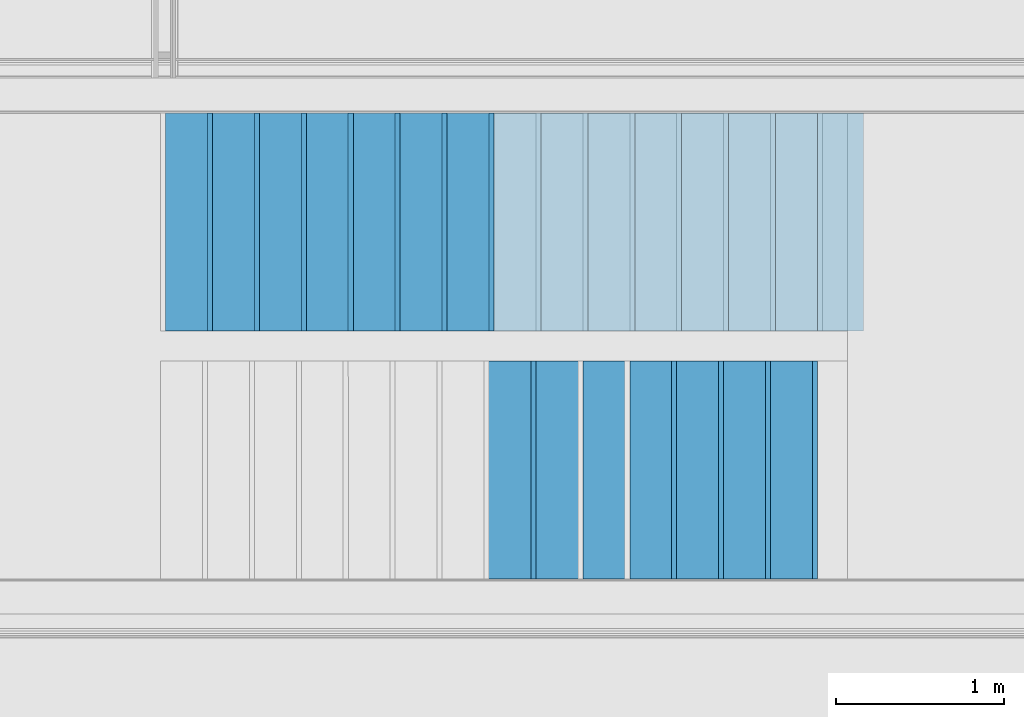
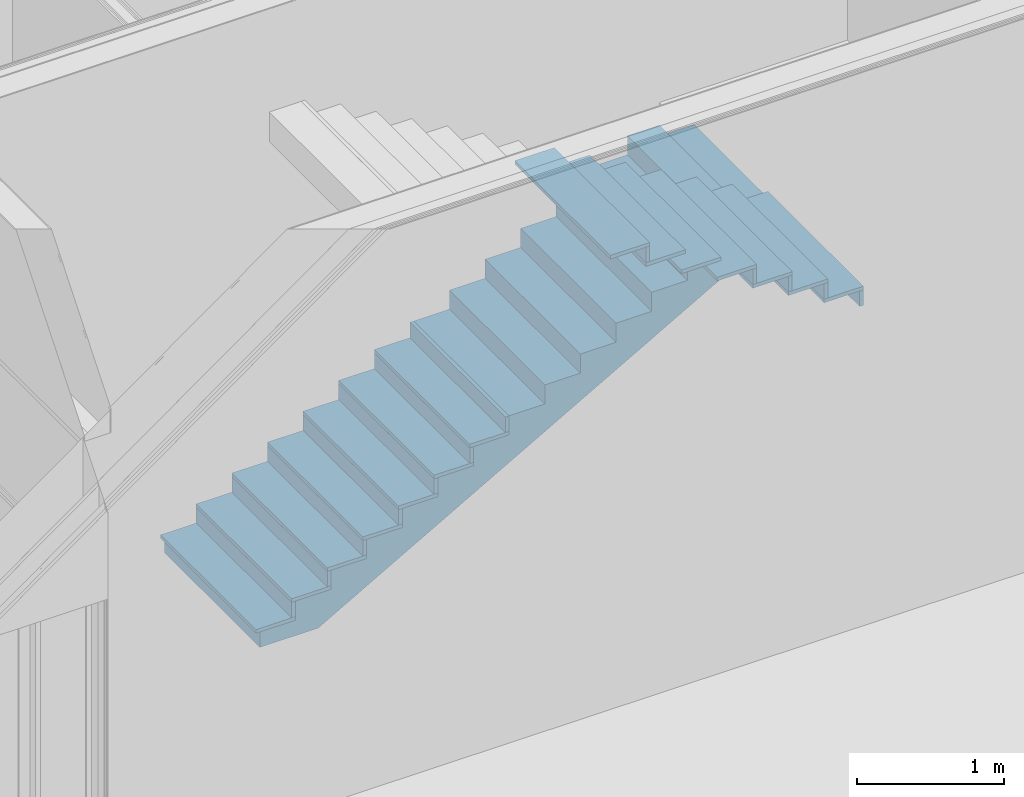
# One storey, part 87 of 260: 27 members, 1 element without a shape of its own.
"""IFC2X3 building model written with IfcOpenShell, lengths in millimetres."""

from ifc_helpers import new_model, entity, si_unit, converted_unit, derived_unit, money_unit, direction, frame, origin_with_axes, place, context, subcontext, project, spatial, faceted_brep, material, type_object, element, aggregate, save


model = new_model("IFC2X3")

# Units and contexts
model_context = context("Model", 3, precision=0.01, world=origin_with_axes(), true_north=direction((0.0, 1.0)))
body_context = subcontext(model_context, "Body", "Model", "MODEL_VIEW")
ifc_project = project(units=[si_unit("LENGTHUNIT", "METRE", prefix="MILLI"), si_unit("AREAUNIT", "SQUARE_METRE"), si_unit("VOLUMEUNIT", "CUBIC_METRE"), converted_unit("PLANEANGLEUNIT", "DEGREE", entity("IfcPlaneAngleMeasure", 0.0174532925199), si_unit("PLANEANGLEUNIT", "RADIAN"), dimensions=[0, 0, 0, 0, 0, 0, 0]), money_unit("EUR"), converted_unit("TIMEUNIT", "Year", entity("IfcTimeMeasure", 31556926.0), si_unit("TIMEUNIT", "SECOND"), dimensions=[0, 0, 1, 0, 0, 0, 0]), si_unit("MASSUNIT", "GRAM", prefix="KILO"), si_unit("THERMODYNAMICTEMPERATUREUNIT", "DEGREE_CELSIUS"), si_unit("LUMINOUSINTENSITYUNIT", "LUMEN"), si_unit("ENERGYUNIT", "JOULE", prefix="MEGA"), derived_unit("THERMALCONDUCTANCEUNIT", [(si_unit("POWERUNIT", "WATT"), 1), (si_unit("LENGTHUNIT", "METRE"), -1), (si_unit("THERMODYNAMICTEMPERATUREUNIT", "KELVIN"), -1)]), derived_unit("SPECIFICHEATCAPACITYUNIT", [(si_unit("ENERGYUNIT", "JOULE"), 1), (si_unit("MASSUNIT", "GRAM", prefix="KILO"), -1), (si_unit("THERMODYNAMICTEMPERATUREUNIT", "KELVIN"), -1)]), derived_unit("MASSDENSITYUNIT", [(si_unit("MASSUNIT", "GRAM", prefix="KILO"), 1), (si_unit("VOLUMEUNIT", "CUBIC_METRE"), -1)])], contexts=[model_context])

# Site, building, storey
site_placement = place(None, origin_with_axes())
site = spatial("IfcSite", under=ifc_project, at=site_placement, Name="Kolde pst 67a", CompositionType="ELEMENT")
building_placement = place(site_placement, origin_with_axes())
building = spatial("IfcBuilding", under=site, at=building_placement, Name="Riigigümnaasium", CompositionType="ELEMENT")
storey_placement = place(building_placement, origin_with_axes())
storey = spatial("IfcBuildingStorey", under=building, at=storey_placement, Name="1. korrus", CompositionType="ELEMENT", Elevation=0.0)

# Stair, members
stair_placement = place(storey_placement, frame((79109.6162467, 9409.92811689, 0.0), z_axis=(0.0, 0.0, 1.0), x_axis=(0.9999999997, 2.4513383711e-05, 0.0)))
stair = element("IfcStair", 1, at=stair_placement, inside=storey, Name="TREPP", ShapeType="NOTDEFINED")
ifc_material_1 = material(Name="_KANDETARIND - raudbetoon C25/30 vastavalt EK osale")
member_type_1 = type_object("IfcMemberType", Name="IfcMember", PredefinedType="USERDEFINED")
member_1_placement = place(stair_placement, origin_with_axes())
member_1 = element("IfcMember", 2, at=member_1_placement, type_object=member_type_1, material=ifc_material_1, Name="TT KONSTRUKTSIOON - 010", ObjectType="Stair Structure", context=body_context, shape_type="Brep", body=[
    faceted_brep([(3639.99955388, -20.0489610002, 2190.68965517), (3639.99953115, -20.0489610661, 2099.31034483), (3640.01721975, 1279.95103888, 2099.31034483), (3640.01721673, 1279.95103888, 2190.68965517), (3546.66627948, -20.0477136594, 1890.95799576), (3593.33291668, -20.0483413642, 1917.39477427), (3639.99953115, -20.0489610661, 1943.8315399), (3914.45332988, -20.0526893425, 2099.31034483), (3389.99973068, -20.045598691, 2190.68965517), (3389.99973068, -20.045598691, 2032.06896552), (3109.9997307, -20.041832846, 2032.06896552), (3109.9997307, -20.041832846, 1873.44827586), (2829.99973073, -20.0380653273, 1873.44827586), (2829.99973073, -20.0380653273, 1714.82758621), (2549.99973075, -20.0342994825, 1714.82758621), (2549.99973075, -20.0342994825, 1556.20689655), (2269.99973078, -20.0305336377, 1556.20689655), (2269.99973078, -20.0305336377, 1397.5862069), (1989.9997308, -20.0267677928, 1397.5862069), (1989.9997308, -20.0267677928, 1238.96551724), (1709.99973083, -20.0230002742, 1238.96551724), (1709.99973083, -20.0230002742, 1080.34482759), (1429.99973085, -20.0192344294, 1080.34482759), (1429.99973085, -20.0192344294, 921.724137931), (1149.99973088, -20.0154685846, 921.724137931), (1149.99973088, -20.0154685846, 763.103448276), (869.999730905, -20.0117027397, 763.103448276), (869.999730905, -20.0117027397, 604.482758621), (589.99973093, -20.0079352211, 604.482758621), (589.99973093, -20.0079352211, 445.862068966), (309.999730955, -20.0041693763, 445.862068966), (309.999730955, -20.0041693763, 287.24137931), (29.9997309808, -20.0004035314, 287.24137931), (29.9997309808, -20.0004035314, 128.620689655), (-250.000268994, -19.9966376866, 128.620689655), (-250.000268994, -19.9966376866, 0.0), (208.714428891, -20.0028105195, 0.0), (279.999730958, -20.0037663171, 40.3832992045), (373.333064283, -20.0050217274, 93.2568624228), (466.666397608, -20.0062771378, 146.130425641), (559.999730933, -20.0075324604, 199.00398886), (653.333064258, -20.0087878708, 251.877552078), (746.666397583, -20.0100432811, 304.751115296), (839.999730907, -20.0112986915, 357.624678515), (933.333064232, -20.0125541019, 410.498241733), (1026.66639756, -20.0138095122, 463.371804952), (1119.99973088, -20.0150649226, 516.24536817), (1213.33306421, -20.0163257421, 569.118931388), (1306.66639753, -20.0175811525, 621.992494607), (1399.99973086, -20.0188325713, 674.866057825), (1493.33306418, -20.0200879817, 727.739621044), (1586.66639751, -20.021343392, 780.613184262), (1679.99973083, -20.0225973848, 833.48674748), (1773.33306416, -20.0238527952, 886.360310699), (1866.66639748, -20.0251082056, 939.233873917), (1959.99973081, -20.0263636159, 992.107437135), (2053.33306413, -20.0276190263, 1044.98100035), (2146.66639746, -20.0288744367, 1097.85456357), (2239.99973078, -20.030129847, 1150.72812679), (2333.33306411, -20.0313919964, 1203.60169001), (2426.66639743, -20.0326474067, 1256.47525323), (2519.99973076, -20.0338988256, 1309.34881644), (2613.33306408, -20.035154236, 1362.22237962), (2706.66639741, -20.0364096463, 1415.09594272), (2799.99973073, -20.0376623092, 1467.96950577), (2846.66639739, -20.0382900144, 1494.40628704), (2893.33306406, -20.0389177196, 1520.84306831), (2939.99973072, -20.0395454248, 1547.2798495), (2986.66639738, -20.04017313, 1573.71663068), (3033.33306404, -20.0408008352, 1600.15341171), (3079.9997307, -20.0414285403, 1626.59019274), (3126.66639737, -20.0420562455, 1653.02697506), (3173.33306403, -20.0426839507, 1679.46375739), (3219.99973069, -20.0433116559, 1705.90053948), (3266.66639735, -20.0439393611, 1732.33732157), (3313.33306402, -20.0445670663, 1758.77410513), (3359.99973068, -20.0451947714, 1785.21088869), (3406.66636788, -20.0458305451, 1811.6476646), (3453.33300508, -20.0464582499, 1838.08444051), (3499.99964228, -20.0470859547, 1864.52121814), (3914.47100043, 1279.9473106, 2099.31034483), (3390.01721675, 1279.95440206, 2190.68965517), (3640.01721975, 1279.95103888, 1943.83155449), (3593.35055006, 1279.95167145, 1917.39477472), (3546.6838834, 1279.95229915, 1890.95799665), (3500.01721674, 1279.95292686, 1864.52121839), (3453.35055008, 1279.95355456, 1838.08444012), (3406.68388342, 1279.95418227, 1811.64766127), (3360.01721675, 1279.95480997, 1785.21088242), (3313.35055009, 1279.95543768, 1758.77410163), (3266.68388343, 1279.95606539, 1732.33732084), (3220.01721677, 1279.95669309, 1705.90053967), (3173.3505501, 1279.9573208, 1679.4637585), (3126.68388344, 1279.9579485, 1653.02697719), (3080.01721678, 1279.95857621, 1626.59019589), (3033.35055012, 1279.95920391, 1600.15341429), (2986.68388345, 1279.95983162, 1573.71663268), (2940.01721679, 1279.96045932, 1547.27985105), (2893.35055013, 1279.96108703, 1520.84306941), (2846.68388347, 1279.96171473, 1494.40628777), (2800.0172168, 1279.96234244, 1467.96950606), (2706.68388348, 1279.96359785, 1415.09594287), (2613.35055015, 1279.96485326, 1362.22237966), (2520.01721683, 1279.96610867, 1309.34881644), (2426.6838835, 1279.96736408, 1256.47525322), (2333.35055018, 1279.96861949, 1203.60169001), (2240.01721685, 1279.9698749, 1150.72812679), (2146.68388353, 1279.97113031, 1097.85456357), (2053.3505502, 1279.97238572, 1044.98100035), (1960.01721688, 1279.97364113, 992.107437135), (1866.68388355, 1279.97489654, 939.233873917), (1773.35055023, 1279.97615195, 886.360310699), (1680.0172169, 1279.97740736, 833.48674748), (1586.68388358, 1279.97866277, 780.613184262), (1493.35055025, 1279.97991818, 727.739621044), (1400.01721693, 1279.98117359, 674.866057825), (1306.68388361, 1279.982429, 621.992494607), (1213.35055028, 1279.98368441, 569.118931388), (1120.01721696, 1279.98493982, 516.24536817), (1026.68388363, 1279.98619523, 463.371804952), (933.350550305, 1279.98745064, 410.498241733), (840.017216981, 1279.98870605, 357.624678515), (746.683883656, 1279.98996147, 304.751115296), (653.350550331, 1279.99121688, 251.877552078), (560.017217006, 1279.99247229, 199.00398886), (466.683883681, 1279.9937277, 146.130425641), (373.350550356, 1279.99498311, 93.2568624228), (280.017217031, 1279.99623852, 40.3832992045), (208.731914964, 1279.99719736, 0.0), (-249.982782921, 1280.00336306, 0.0), (-249.982782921, 1280.00336306, 128.620689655), (30.0172170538, 1279.99959683, 128.620689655), (30.0172170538, 1279.99959683, 287.24137931), (310.017217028, 1279.9958306, 287.24137931), (310.017217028, 1279.9958306, 445.862068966), (590.017217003, 1279.99206437, 445.862068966), (590.017217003, 1279.99206437, 604.482758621), (870.017216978, 1279.98829814, 604.482758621), (870.017216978, 1279.98829814, 763.103448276), (1150.01721695, 1279.98453191, 763.103448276), (1150.01721695, 1279.98453191, 921.724137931), (1430.01721693, 1279.98076567, 921.724137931), (1430.01721693, 1279.98076567, 1080.34482759), (1710.0172169, 1279.97699944, 1080.34482759), (1710.0172169, 1279.97699944, 1238.96551724), (1990.01721688, 1279.97323321, 1238.96551724), (1990.01721688, 1279.97323321, 1397.5862069), (2270.01721685, 1279.96946698, 1397.5862069), (2270.01721685, 1279.96946698, 1556.20689655), (2550.01721683, 1279.96570075, 1556.20689655), (2550.01721683, 1279.96570075, 1714.82758621), (2830.0172168, 1279.96193452, 1714.82758621), (2830.0172168, 1279.96193452, 1873.44827586), (3110.01721678, 1279.95816829, 1873.44827586), (3110.01721678, 1279.95816829, 2032.06896552), (3390.01721675, 1279.95440206, 2032.06896552), (3546.67068046, 304.952289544, 1890.95799598), (3640.0039533, 304.951034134, 1943.83154355), (3640.0127976, 954.951040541, 1943.83155085), (2800.01284528, 954.962341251, 1467.96950601), (2800.00410225, 304.962338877, 1467.96950586), (2893.33743557, 304.961083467, 1520.84306859), (2986.6707689, 304.959828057, 1573.71663118), (3080.00410222, 304.958572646, 1626.59019353), (3173.33743555, 304.957317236, 1679.46375767), (3266.67076887, 304.956061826, 1732.33732139), (3360.0041022, 304.954806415, 1785.21088712), (3453.33739133, 304.953544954, 1838.08444041), (3546.67948242, 954.952295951, 1890.95799643), (3453.34616383, 954.953551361, 1838.08444022), (3360.01284523, 954.954808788, 1785.21088399), (3266.67951191, 954.956064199, 1732.33732102), (3173.34617858, 954.957319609, 1679.46375822), (3080.01284526, 954.958575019, 1626.5901951), (2986.67951193, 954.95983043, 1573.71663218), (2893.34617861, 954.96108584, 1520.84306914), (3593.34173337, 629.951665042, 1917.39477449), (2846.67514043, 629.961712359, 1494.40628741), (2940.00847375, 629.960456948, 1547.27985027), (3033.34180708, 629.959201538, 1600.153413), (3126.6751404, 629.957946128, 1653.02697613), (3220.00847373, 629.956690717, 1705.90053958), (3313.34180705, 629.955435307, 1758.77410338), (3406.67512565, 629.954175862, 1811.64766294), (3500.00842951, 629.952920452, 1864.52121826)], [[[0, 1, 2, 3]], [[4, 5, 6, 7, 1, 0, 8, 9, 10, 11, 12, 13, 14, 15, 16, 17, 18, 19, 20, 21, 22, 23, 24, 25, 26, 27, 28, 29, 30, 31, 32, 33, 34, 35, 36, 37, 38, 39, 40, 41, 42, 43, 44, 45, 46, 47, 48, 49, 50, 51, 52, 53, 54, 55, 56, 57, 58, 59, 60, 61, 62, 63, 64, 65, 66, 67, 68, 69, 70, 71, 72, 73, 74, 75, 76, 77, 78, 79]], [[80, 2, 1, 7]], [[81, 3, 2, 80, 82, 83, 84, 85, 86, 87, 88, 89, 90, 91, 92, 93, 94, 95, 96, 97, 98, 99, 100, 101, 102, 103, 104, 105, 106, 107, 108, 109, 110, 111, 112, 113, 114, 115, 116, 117, 118, 119, 120, 121, 122, 123, 124, 125, 126, 127, 128, 129, 130, 131, 132, 133, 134, 135, 136, 137, 138, 139, 140, 141, 142, 143, 144, 145, 146, 147, 148, 149, 150, 151, 152, 153, 154, 155]], [[8, 0, 3, 81]], [[5, 4, 156]], [[5, 157, 6]], [[7, 6, 157, 158, 82, 80]], [[155, 9, 8, 81]], [[155, 154, 10, 9]], [[153, 11, 10, 154]], [[153, 152, 12, 11]], [[151, 13, 12, 152]], [[151, 150, 14, 13]], [[149, 15, 14, 150]], [[149, 148, 16, 15]], [[147, 17, 16, 148]], [[147, 146, 18, 17]], [[145, 19, 18, 146]], [[145, 144, 20, 19]], [[143, 21, 20, 144]], [[143, 142, 22, 21]], [[141, 23, 22, 142]], [[141, 140, 24, 23]], [[139, 25, 24, 140]], [[139, 138, 26, 25]], [[137, 27, 26, 138]], [[137, 136, 28, 27]], [[135, 29, 28, 136]], [[135, 134, 30, 29]], [[133, 31, 30, 134]], [[133, 132, 32, 31]], [[131, 33, 32, 132]], [[131, 130, 34, 33]], [[130, 129, 35, 34]], [[35, 129, 128, 36]], [[128, 127, 37, 36]], [[127, 126, 38, 37]], [[126, 125, 39, 38]], [[125, 124, 40, 39]], [[124, 123, 41, 40]], [[123, 122, 42, 41]], [[122, 121, 43, 42]], [[121, 120, 44, 43]], [[120, 119, 45, 44]], [[119, 118, 46, 45]], [[118, 117, 47, 46]], [[117, 116, 48, 47]], [[116, 115, 49, 48]], [[115, 114, 50, 49]], [[114, 113, 51, 50]], [[113, 112, 52, 51]], [[112, 111, 53, 52]], [[111, 110, 54, 53]], [[110, 109, 55, 54]], [[109, 108, 56, 55]], [[108, 107, 57, 56]], [[107, 106, 58, 57]], [[106, 105, 59, 58]], [[105, 104, 60, 59]], [[104, 103, 61, 60]], [[103, 102, 62, 61]], [[102, 101, 63, 62]], [[101, 100, 159, 160, 64, 63]], [[65, 64, 160]], [[66, 65, 161]], [[67, 66, 161]], [[68, 67, 162]], [[69, 68, 162]], [[70, 69, 163]], [[71, 70, 163]], [[72, 71, 164]], [[73, 72, 164]], [[74, 73, 165]], [[75, 74, 165]], [[76, 75, 166]], [[77, 76, 166]], [[78, 77, 167]], [[79, 78, 167]], [[4, 79, 156]], [[83, 82, 158]], [[84, 83, 168]], [[85, 84, 168]], [[86, 85, 169]], [[87, 86, 169]], [[88, 87, 170]], [[89, 88, 170]], [[90, 89, 171]], [[91, 90, 171]], [[92, 91, 172]], [[93, 92, 172]], [[94, 93, 173]], [[95, 94, 173]], [[96, 95, 174]], [[97, 96, 174]], [[98, 97, 175]], [[99, 98, 175]], [[100, 99, 159]], [[157, 5, 156, 176]], [[176, 158, 157]], [[177, 160, 159]], [[161, 65, 160, 177]], [[162, 67, 161, 178]], [[163, 69, 162, 179]], [[180, 164, 71, 163]], [[165, 73, 164, 181]], [[166, 75, 165, 182]], [[183, 167, 77, 166]], [[184, 156, 79, 167]], [[83, 158, 176, 168]], [[168, 184, 169, 85]], [[169, 183, 170, 87]], [[89, 170, 182, 171]], [[91, 171, 181, 172]], [[172, 180, 173, 93]], [[95, 173, 179, 174]], [[174, 178, 175, 97]], [[99, 175, 177, 159]], [[168, 176, 156]], [[175, 161, 177]], [[175, 178, 161]], [[174, 162, 178]], [[179, 162, 174]], [[173, 163, 179]], [[172, 164, 180]], [[180, 163, 173]], [[181, 164, 172]], [[165, 181, 171]], [[182, 165, 171]], [[170, 166, 182]], [[167, 183, 169]], [[170, 183, 166]], [[168, 156, 184]], [[169, 184, 167]]]),
])
ifc_material_2 = material(Name="_VIIMISTLUSKIHT - viimistlus vastavalt SA osale")
member_type_2 = type_object("IfcMemberType", Name="IfcMember", PredefinedType="USERDEFINED")
member_2_placement = place(stair_placement, frame((0.00874303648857, 649.999999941, 287.24137931), z_axis=(0.0, 0.0, 1.0), x_axis=(1.34508253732e-05, 0.99999999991, 0.0)))
member_2 = element("IfcMember", 3, at=member_2_placement, type_object=member_type_2, material=ifc_material_2, Name="TV TÕUS - 147", ObjectType="Stair Riser", context=body_context, shape_type="Brep", body=[
    faceted_brep([(630.0, 0.0, 0.0), (-670.0, 0.0, 0.0), (-670.0, -30.0, 0.0), (630.0, -30.0, 0.0), (630.0, 0.0, -128.620689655), (-670.0, 0.0, -128.620689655), (-670.0, -30.0, -128.620689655), (630.0, -30.0, -128.620689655)], [[[0, 1, 2, 3]], [[4, 5, 1, 0]], [[1, 5, 6, 2]], [[3, 2, 6, 7]], [[0, 3, 7, 4]], [[7, 6, 5, 4]]]),
])
member_3_placement = place(stair_placement, frame((280.008743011, 649.99623371, 445.862068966), z_axis=(0.0, 0.0, 1.0), x_axis=(1.34508253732e-05, 0.99999999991, 0.0)))
member_3 = element("IfcMember", 4, at=member_3_placement, type_object=member_type_2, material=ifc_material_2, Name="TV TÕUS - 148", ObjectType="Stair Riser", context=body_context, shape_type="Brep", body=[
    faceted_brep([(630.0, 0.0, 0.0), (-670.0, 0.0, 0.0), (-670.0, -30.0, 0.0), (630.0, -30.0, 0.0), (630.0, 0.0, -128.620689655), (-670.0, 0.0, -128.620689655), (-670.0, -30.0, -128.620689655), (630.0, -30.0, -128.620689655)], [[[0, 1, 2, 3]], [[4, 5, 1, 0]], [[1, 5, 6, 2]], [[3, 2, 6, 7]], [[0, 3, 7, 4]], [[7, 6, 5, 4]]]),
])
member_4_placement = place(stair_placement, frame((560.008742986, 649.992467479, 604.482758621), z_axis=(0.0, 0.0, 1.0), x_axis=(1.34508253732e-05, 0.99999999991, 0.0)))
member_4 = element("IfcMember", 5, at=member_4_placement, type_object=member_type_2, material=ifc_material_2, Name="TV TÕUS - 149", ObjectType="Stair Riser", context=body_context, shape_type="Brep", body=[
    faceted_brep([(630.0, 0.0, 0.0), (-670.0, 0.0, 0.0), (-670.0, -30.0, 0.0), (630.0, -30.0, 0.0), (630.0, 0.0, -128.620689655), (-670.0, 0.0, -128.620689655), (-670.0, -30.0, -128.620689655), (630.0, -30.0, -128.620689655)], [[[0, 1, 2, 3]], [[4, 5, 1, 0]], [[1, 5, 6, 2]], [[3, 2, 6, 7]], [[0, 3, 7, 4]], [[7, 6, 5, 4]]]),
])
member_5_placement = place(stair_placement, frame((840.00874296, 649.988701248, 763.103448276), z_axis=(0.0, 0.0, 1.0), x_axis=(1.34508253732e-05, 0.99999999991, 0.0)))
member_5 = element("IfcMember", 6, at=member_5_placement, type_object=member_type_2, material=ifc_material_2, Name="TV TÕUS - 150", ObjectType="Stair Riser", context=body_context, shape_type="Brep", body=[
    faceted_brep([(630.0, 0.0, 0.0), (-670.0, 0.0, 0.0), (-670.0, -30.0, 0.0), (630.0, -30.0, 0.0), (630.0, 0.0, -128.620689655), (-670.0, 0.0, -128.620689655), (-670.0, -30.0, -128.620689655), (630.0, -30.0, -128.620689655)], [[[0, 1, 2, 3]], [[4, 5, 1, 0]], [[1, 5, 6, 2]], [[3, 2, 6, 7]], [[0, 3, 7, 4]], [[7, 6, 5, 4]]]),
])
member_6_placement = place(stair_placement, frame((1120.00874294, 649.984935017, 921.724137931), z_axis=(0.0, 0.0, 1.0), x_axis=(1.3450825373e-05, 0.99999999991, 0.0)))
member_6 = element("IfcMember", 7, at=member_6_placement, type_object=member_type_2, material=ifc_material_2, Name="TV TÕUS - 151", ObjectType="Stair Riser", context=body_context, shape_type="Brep", body=[
    faceted_brep([(630.0, 0.0, 0.0), (-670.0, 0.0, 0.0), (-670.0, -30.0, 0.0), (630.0, -30.0, 0.0), (630.0, 0.0, -128.620689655), (-670.0, 0.0, -128.620689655), (-670.0, -30.0, -128.620689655), (630.0, -30.0, -128.620689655)], [[[0, 1, 2, 3]], [[4, 5, 1, 0]], [[1, 5, 6, 2]], [[3, 2, 6, 7]], [[0, 3, 7, 4]], [[7, 6, 5, 4]]]),
])
member_7_placement = place(stair_placement, frame((1400.00874291, 649.981168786, 1080.34482759), z_axis=(0.0, 0.0, 1.0), x_axis=(1.3450825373e-05, 0.99999999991, 0.0)))
member_7 = element("IfcMember", 8, at=member_7_placement, type_object=member_type_2, material=ifc_material_2, Name="TV TÕUS - 152", ObjectType="Stair Riser", context=body_context, shape_type="Brep", body=[
    faceted_brep([(630.0, 0.0, 0.0), (-670.0, 0.0, 0.0), (-670.0, -30.0, 0.0), (630.0, -30.0, 0.0), (630.0, 0.0, -128.620689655), (-670.0, 0.0, -128.620689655), (-670.0, -30.0, -128.620689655), (630.0, -30.0, -128.620689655)], [[[0, 1, 2, 3]], [[4, 5, 1, 0]], [[1, 5, 6, 2]], [[3, 2, 6, 7]], [[0, 3, 7, 4]], [[7, 6, 5, 4]]]),
])
member_8_placement = place(stair_placement, frame((1680.00874288, 649.977402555, 1238.96551724), z_axis=(0.0, 0.0, 1.0), x_axis=(1.34508253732e-05, 0.99999999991, 0.0)))
member_8 = element("IfcMember", 9, at=member_8_placement, type_object=member_type_2, material=ifc_material_2, Name="TV TÕUS - 153", ObjectType="Stair Riser", context=body_context, shape_type="Brep", body=[
    faceted_brep([(630.0, 0.0, 0.0), (-670.0, 0.0, 0.0), (-670.0, -30.0, 0.0), (630.0, -30.0, 0.0), (630.0, 0.0, -128.620689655), (-670.0, 0.0, -128.620689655), (-670.0, -30.0, -128.620689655), (630.0, -30.0, -128.620689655)], [[[0, 1, 2, 3]], [[4, 5, 1, 0]], [[1, 5, 6, 2]], [[3, 2, 6, 7]], [[0, 3, 7, 4]], [[7, 6, 5, 4]]]),
])
member_9_placement = place(stair_placement, frame((3639.99476559, -850.048960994, 2507.93103448), z_axis=(0.0, 0.0, 1.0), x_axis=(-1.19413351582e-06, -0.999999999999, 0.0)))
member_9 = element("IfcMember", 10, at=member_9_placement, type_object=member_type_2, material=ifc_material_2, Name="TV TÕUS - 160", ObjectType="Stair Riser", context=body_context, shape_type="Brep", body=[
    faceted_brep([(650.0, -30.0, 0.0), (650.0, 0.0, 0.0), (-649.999999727, 0.0, 0.0), (-649.999999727, -30.0, 0.0), (650.0, 0.0, -128.620689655), (650.0, -30.0, -128.620689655), (-649.999999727, 0.0, -128.620689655), (-649.999999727, -30.0, -128.620689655)], [[[0, 1, 2, 3]], [[4, 1, 0, 5]], [[1, 4, 6, 2]], [[3, 2, 6, 7]], [[5, 0, 3, 7]], [[4, 5, 7, 6]]]),
])
member_10_placement = place(stair_placement, frame((3359.99476559, -850.048626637, 2666.55172414), z_axis=(0.0, 0.0, 1.0), x_axis=(-1.19413351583e-06, -0.999999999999, 0.0)))
member_10 = element("IfcMember", 11, at=member_10_placement, type_object=member_type_2, material=ifc_material_2, Name="TV TÕUS - 161", ObjectType="Stair Riser", context=body_context, shape_type="Brep", body=[
    faceted_brep([(650.0, 0.0, 0.0), (-649.999999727, 0.0, 0.0), (-649.999999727, -30.0, 0.0), (650.0, -30.0, 0.0), (650.0, 0.0, -128.620689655), (-649.999999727, 0.0, -128.620689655), (-649.999999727, -30.0, -128.620689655), (650.0, -30.0, -128.620689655)], [[[0, 1, 2, 3]], [[4, 5, 1, 0]], [[1, 5, 6, 2]], [[3, 2, 6, 7]], [[0, 3, 7, 4]], [[7, 6, 5, 4]]]),
])
member_11_placement = place(stair_placement, frame((3079.99476559, -850.048292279, 2825.17241379), z_axis=(0.0, 0.0, 1.0), x_axis=(-1.19413351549e-06, -0.999999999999, 0.0)))
member_11 = element("IfcMember", 12, at=member_11_placement, type_object=member_type_2, material=ifc_material_2, Name="TV TÕUS - 162", ObjectType="Stair Riser", context=body_context, shape_type="Brep", body=[
    faceted_brep([(650.0, 0.0, 0.0), (-649.999999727, 0.0, 0.0), (-649.999999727, -30.0, 0.0), (650.0, -30.0, 0.0), (650.0, 0.0, -128.620689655), (-649.999999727, 0.0, -128.620689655), (-649.999999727, -30.0, -128.620689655), (650.0, -30.0, -128.620689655)], [[[0, 1, 2, 3]], [[4, 5, 1, 0]], [[1, 5, 6, 2]], [[3, 2, 6, 7]], [[0, 3, 7, 4]], [[7, 6, 5, 4]]]),
])
member_12_placement = place(stair_placement, frame((2799.99476559, -850.047957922, 2983.79310345), z_axis=(0.0, 0.0, 1.0), x_axis=(-1.19413351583e-06, -0.999999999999, 0.0)))
member_12 = element("IfcMember", 13, at=member_12_placement, type_object=member_type_2, material=ifc_material_2, Name="TV TÕUS - 163", ObjectType="Stair Riser", context=body_context, shape_type="Brep", body=[
    faceted_brep([(650.0, 0.0, 0.0), (-649.999999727, 0.0, 0.0), (-649.999999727, -30.0, 0.0), (650.0, -30.0, 0.0), (650.0, 0.0, -128.620689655), (-649.999999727, 0.0, -128.620689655), (-649.999999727, -30.0, -128.620689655), (650.0, -30.0, -128.620689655)], [[[0, 1, 2, 3]], [[4, 5, 1, 0]], [[1, 5, 6, 2]], [[3, 2, 6, 7]], [[0, 3, 7, 4]], [[7, 6, 5, 4]]]),
])
member_13_placement = place(stair_placement, frame((1959.99476559, -850.04695485, 3459.65517241), z_axis=(0.0, 0.0, 1.0), x_axis=(-1.19413351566e-06, -0.999999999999, 0.0)))
member_13 = element("IfcMember", 14, at=member_13_placement, type_object=member_type_2, material=ifc_material_2, Name="TV TÕUS - 166", ObjectType="Stair Riser", context=body_context, shape_type="Brep", body=[
    faceted_brep([(650.0, 0.0, 0.0), (-649.999999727, 0.0, 0.0), (-649.999999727, -30.0, 0.0), (650.0, -30.0, 0.0), (650.0, 0.0, -128.620689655), (-649.999999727, 0.0, -128.620689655), (-649.999999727, -30.0, -128.620689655), (650.0, -30.0, -128.620689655)], [[[0, 1, 2, 3]], [[4, 5, 1, 0]], [[1, 5, 6, 2]], [[3, 2, 6, 7]], [[0, 3, 7, 4]], [[7, 6, 5, 4]]]),
])
member_type_3 = type_object("IfcMemberType", Name="IfcMember", PredefinedType="USERDEFINED")
member_14_placement = place(stair_placement, frame((-279.991256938, 650.003766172, 158.620689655), z_axis=(0.0, 0.0, 1.0), x_axis=(1.34508253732e-05, 0.99999999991, 0.0)))
member_14 = element("IfcMember", 15, at=member_14_placement, type_object=member_type_3, material=ifc_material_2, Name="TV ASTE - 146", ObjectType="Stair Tread", context=body_context, shape_type="Brep", body=[
    faceted_brep([(-670.0, 0.0, -30.0), (-670.0, 0.0, 0.0), (630.0, 0.0, 0.0), (630.0, 0.0, -30.0), (-670.0, -309.999993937, -30.0), (-670.0, -309.999993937, 0.0), (630.0, -310.00000041, 0.0), (630.0, -310.00000041, -30.0)], [[[0, 1, 2, 3]], [[4, 5, 1, 0]], [[1, 5, 6, 2]], [[3, 2, 6, 7]], [[0, 3, 7, 4]], [[7, 6, 5, 4]]]),
])
member_15_placement = place(stair_placement, frame((0.00874303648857, 649.999999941, 317.24137931), z_axis=(0.0, 0.0, 1.0), x_axis=(1.34508253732e-05, 0.99999999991, 0.0)))
member_15 = element("IfcMember", 16, at=member_15_placement, type_object=member_type_3, material=ifc_material_2, Name="TV ASTE - 147", ObjectType="Stair Tread", context=body_context, shape_type="Brep", body=[
    faceted_brep([(-670.0, 0.0, -30.0), (-670.0, 0.0, 0.0), (630.0, 0.0, 0.0), (630.0, 0.0, -30.0), (-670.0, -309.999993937, -30.0), (-670.0, -309.999993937, 0.0), (630.0, -310.00000041, 0.0), (630.0, -310.00000041, -30.0)], [[[0, 1, 2, 3]], [[4, 5, 1, 0]], [[1, 5, 6, 2]], [[3, 2, 6, 7]], [[0, 3, 7, 4]], [[7, 6, 5, 4]]]),
])
member_16_placement = place(stair_placement, frame((280.008743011, 649.99623371, 475.862068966), z_axis=(0.0, 0.0, 1.0), x_axis=(1.34508253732e-05, 0.99999999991, 0.0)))
member_16 = element("IfcMember", 17, at=member_16_placement, type_object=member_type_3, material=ifc_material_2, Name="TV ASTE - 148", ObjectType="Stair Tread", context=body_context, shape_type="Brep", body=[
    faceted_brep([(-670.0, 0.0, -30.0), (-670.0, 0.0, 0.0), (630.0, 0.0, 0.0), (630.0, 0.0, -30.0), (-670.0, -309.999993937, -30.0), (-670.0, -309.999993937, 0.0), (630.0, -310.00000041, 0.0), (630.0, -310.00000041, -30.0)], [[[0, 1, 2, 3]], [[4, 5, 1, 0]], [[1, 5, 6, 2]], [[3, 2, 6, 7]], [[0, 3, 7, 4]], [[7, 6, 5, 4]]]),
])
member_17_placement = place(stair_placement, frame((560.008742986, 649.992467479, 634.482758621), z_axis=(0.0, 0.0, 1.0), x_axis=(1.34508253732e-05, 0.99999999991, 0.0)))
member_17 = element("IfcMember", 18, at=member_17_placement, type_object=member_type_3, material=ifc_material_2, Name="TV ASTE - 149", ObjectType="Stair Tread", context=body_context, shape_type="Brep", body=[
    faceted_brep([(-670.0, 0.0, -30.0), (-670.0, 0.0, 0.0), (630.0, 0.0, 0.0), (630.0, 0.0, -30.0), (-670.0, -309.999993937, -30.0), (-670.0, -309.999993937, 0.0), (630.0, -310.00000041, 0.0), (630.0, -310.00000041, -30.0)], [[[0, 1, 2, 3]], [[4, 5, 1, 0]], [[1, 5, 6, 2]], [[3, 2, 6, 7]], [[0, 3, 7, 4]], [[7, 6, 5, 4]]]),
])
member_18_placement = place(stair_placement, frame((840.00874296, 649.988701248, 793.103448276), z_axis=(0.0, 0.0, 1.0), x_axis=(1.34508253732e-05, 0.99999999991, 0.0)))
member_18 = element("IfcMember", 19, at=member_18_placement, type_object=member_type_3, material=ifc_material_2, Name="TV ASTE - 150", ObjectType="Stair Tread", context=body_context, shape_type="Brep", body=[
    faceted_brep([(-670.0, 0.0, -30.0), (-670.0, 0.0, 0.0), (630.0, 0.0, 0.0), (630.0, 0.0, -30.0), (-670.0, -309.999993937, -30.0), (-670.0, -309.999993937, 0.0), (630.0, -310.00000041, 0.0), (630.0, -310.00000041, -30.0)], [[[0, 1, 2, 3]], [[4, 5, 1, 0]], [[1, 5, 6, 2]], [[3, 2, 6, 7]], [[0, 3, 7, 4]], [[7, 6, 5, 4]]]),
])
member_19_placement = place(stair_placement, frame((1120.00874294, 649.984935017, 951.724137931), z_axis=(0.0, 0.0, 1.0), x_axis=(1.3450825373e-05, 0.99999999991, 0.0)))
member_19 = element("IfcMember", 20, at=member_19_placement, type_object=member_type_3, material=ifc_material_2, Name="TV ASTE - 151", ObjectType="Stair Tread", context=body_context, shape_type="Brep", body=[
    faceted_brep([(-670.0, 0.0, -30.0), (-670.0, 0.0, 0.0), (630.0, 0.0, 0.0), (630.0, 0.0, -30.0), (-670.0, -309.999993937, -30.0), (-670.0, -309.999993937, 0.0), (630.0, -310.00000041, 0.0), (630.0, -310.00000041, -30.0)], [[[0, 1, 2, 3]], [[4, 5, 1, 0]], [[1, 5, 6, 2]], [[3, 2, 6, 7]], [[0, 3, 7, 4]], [[7, 6, 5, 4]]]),
])
member_20_placement = place(stair_placement, frame((1400.00874291, 649.981168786, 1110.34482759), z_axis=(0.0, 0.0, 1.0), x_axis=(1.3450825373e-05, 0.99999999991, 0.0)))
member_20 = element("IfcMember", 21, at=member_20_placement, type_object=member_type_3, material=ifc_material_2, Name="TV ASTE - 152", ObjectType="Stair Tread", context=body_context, shape_type="Brep", body=[
    faceted_brep([(-670.0, 0.0, -30.0), (-670.0, 0.0, 0.0), (630.0, 0.0, 0.0), (630.0, 0.0, -30.0), (-670.0, -309.999993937, -30.0), (-670.0, -309.999993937, 0.0), (630.0, -310.00000041, 0.0), (630.0, -310.00000041, -30.0)], [[[0, 1, 2, 3]], [[4, 5, 1, 0]], [[1, 5, 6, 2]], [[3, 2, 6, 7]], [[0, 3, 7, 4]], [[7, 6, 5, 4]]]),
])
member_21_placement = place(stair_placement, frame((3639.99476559, -850.048960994, 2537.93103448), z_axis=(0.0, 0.0, 1.0), x_axis=(-1.19413351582e-06, -0.999999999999, 0.0)))
member_21 = element("IfcMember", 22, at=member_21_placement, type_object=member_type_3, material=ifc_material_2, Name="TV ASTE - 160", ObjectType="Stair Tread", context=body_context, shape_type="Brep", body=[
    faceted_brep([(650.0, -310.0, -30.0), (650.0, 5.96047300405e-06, -30.0), (650.0, 5.96047300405e-06, 0.0), (650.0, -310.0, 0.0), (-650.0, 5.9604587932e-06, -30.0), (-650.0, -310.0, -30.0), (-650.0, 5.9604587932e-06, 0.0), (-650.0, -310.0, 0.0)], [[[0, 1, 2, 3]], [[4, 1, 0, 5]], [[1, 4, 6, 2]], [[3, 2, 6, 7]], [[5, 0, 3, 7]], [[4, 5, 7, 6]]]),
])
member_22_placement = place(stair_placement, frame((3359.99476559, -850.048626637, 2696.55172414), z_axis=(0.0, 0.0, 1.0), x_axis=(-1.19413351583e-06, -0.999999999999, 0.0)))
member_22 = element("IfcMember", 23, at=member_22_placement, type_object=member_type_3, material=ifc_material_2, Name="TV ASTE - 161", ObjectType="Stair Tread", context=body_context, shape_type="Brep", body=[
    faceted_brep([(-650.0, 0.0, -30.0), (-650.0, 0.0, 0.0), (650.0, 0.0, 0.0), (650.0, 0.0, -30.0), (-650.0, -310.0, -30.0), (-650.0, -310.0, 0.0), (650.0, -310.0, 0.0), (650.0, -310.0, -30.0)], [[[0, 1, 2, 3]], [[4, 5, 1, 0]], [[1, 5, 6, 2]], [[3, 2, 6, 7]], [[0, 3, 7, 4]], [[7, 6, 5, 4]]]),
])
member_23_placement = place(stair_placement, frame((3079.99476559, -850.048292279, 2855.17241379), z_axis=(0.0, 0.0, 1.0), x_axis=(-1.19413351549e-06, -0.999999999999, 0.0)))
member_23 = element("IfcMember", 24, at=member_23_placement, type_object=member_type_3, material=ifc_material_2, Name="TV ASTE - 162", ObjectType="Stair Tread", context=body_context, shape_type="Brep", body=[
    faceted_brep([(-650.0, 0.0, -30.0), (-650.0, 0.0, 0.0), (650.0, 0.0, 0.0), (650.0, 0.0, -30.0), (-650.0, -310.0, -30.0), (-650.0, -310.0, 0.0), (650.0, -310.0, 0.0), (650.0, -310.0, -30.0)], [[[0, 1, 2, 3]], [[4, 5, 1, 0]], [[1, 5, 6, 2]], [[3, 2, 6, 7]], [[0, 3, 7, 4]], [[7, 6, 5, 4]]]),
])
member_24_placement = place(stair_placement, frame((2799.99476559, -850.047957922, 3013.79310345), z_axis=(0.0, 0.0, 1.0), x_axis=(-1.19413351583e-06, -0.999999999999, 0.0)))
member_24 = element("IfcMember", 25, at=member_24_placement, type_object=member_type_3, material=ifc_material_2, Name="TV ASTE - 163", ObjectType="Stair Tread", context=body_context, shape_type="Brep", body=[
    faceted_brep([(-650.0, 0.0, -30.0), (-650.0, 0.0, 0.0), (650.0, 0.0, 0.0), (650.0, 0.0, -30.0), (-650.0, -310.0, -30.0), (-650.0, -310.0, 0.0), (650.0, -310.0, 0.0), (650.0, -310.0, -30.0)], [[[0, 1, 2, 3]], [[4, 5, 1, 0]], [[1, 5, 6, 2]], [[3, 2, 6, 7]], [[0, 3, 7, 4]], [[7, 6, 5, 4]]]),
])
member_25_placement = place(stair_placement, frame((2519.99476559, -850.047623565, 3172.4137931), z_axis=(0.0, 0.0, 1.0), x_axis=(-1.19413351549e-06, -0.999999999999, 0.0)))
member_25 = element("IfcMember", 26, at=member_25_placement, type_object=member_type_3, material=ifc_material_2, Name="TV ASTE - 164", ObjectType="Stair Tread", context=body_context, shape_type="Brep", body=[
    faceted_brep([(-650.0, 0.0, -30.0), (-650.0, 0.0, 0.0), (650.0, 0.0, 0.0), (650.0, 0.0, -30.0), (-650.0, -310.0, -30.0), (-650.0, -310.0, 0.0), (650.0, -310.0, 0.0), (650.0, -310.0, -30.0)], [[[0, 1, 2, 3]], [[4, 5, 1, 0]], [[1, 5, 6, 2]], [[3, 2, 6, 7]], [[0, 3, 7, 4]], [[7, 6, 5, 4]]]),
])
member_26_placement = place(stair_placement, frame((2239.99476559, -850.047289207, 3331.03448276), z_axis=(0.0, 0.0, 1.0), x_axis=(-1.19413351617e-06, -0.999999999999, 0.0)))
member_26 = element("IfcMember", 27, at=member_26_placement, type_object=member_type_3, material=ifc_material_2, Name="TV ASTE - 165", ObjectType="Stair Tread", context=body_context, shape_type="Brep", body=[
    faceted_brep([(-650.0, 0.0, -30.0), (-650.0, 0.0, 0.0), (650.0, 0.0, 0.0), (650.0, 0.0, -30.0), (-650.0, -310.0, -30.0), (-650.0, -310.0, 0.0), (650.0, -310.0, 0.0), (650.0, -310.0, -30.0)], [[[0, 1, 2, 3]], [[4, 5, 1, 0]], [[1, 5, 6, 2]], [[3, 2, 6, 7]], [[0, 3, 7, 4]], [[7, 6, 5, 4]]]),
])
member_27_placement = place(stair_placement, frame((1959.99476559, -850.04695485, 3489.65517241), z_axis=(0.0, 0.0, 1.0), x_axis=(-1.19413351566e-06, -0.999999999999, 0.0)))
member_27 = element("IfcMember", 28, at=member_27_placement, type_object=member_type_3, material=ifc_material_2, Name="TV ASTE - 166", ObjectType="Stair Tread", context=body_context, shape_type="Brep", body=[
    faceted_brep([(-650.0, 0.0, -30.0), (-650.0, 0.0, 0.0), (650.0, 0.0, 0.0), (650.0, 0.0, -30.0), (-650.0, -310.0, -30.0), (-650.0, -310.0, 0.0), (650.0, -310.0, 0.0), (650.0, -310.0, -30.0)], [[[0, 1, 2, 3]], [[4, 5, 1, 0]], [[1, 5, 6, 2]], [[3, 2, 6, 7]], [[0, 3, 7, 4]], [[7, 6, 5, 4]]]),
])
aggregate(stair, [member_1, member_2, member_3, member_4, member_5, member_6, member_7, member_8, member_9, member_10, member_11, member_12, member_13, member_14, member_15, member_16, member_17, member_18, member_19, member_20, member_21, member_22, member_23, member_24, member_25, member_26, member_27])

save(model, "model.ifc")
